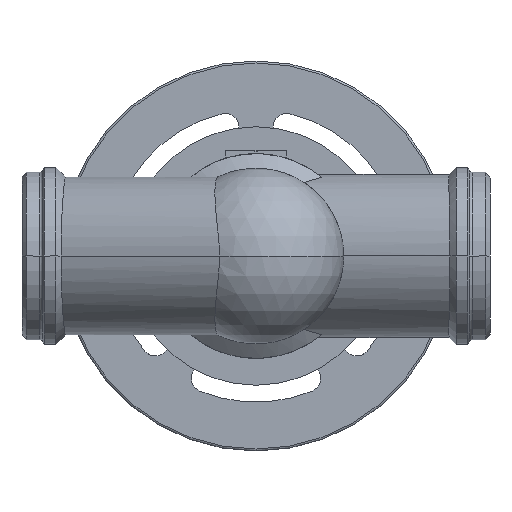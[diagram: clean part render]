
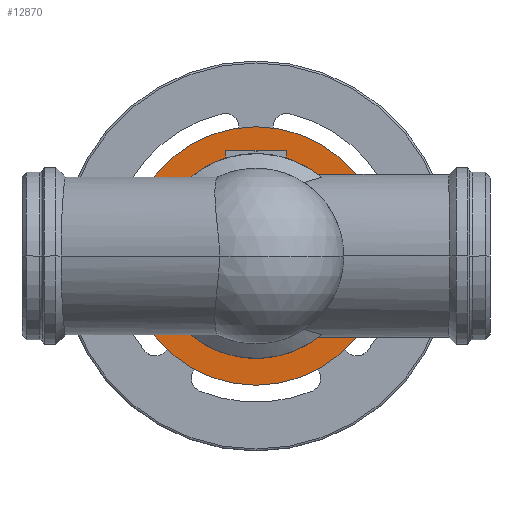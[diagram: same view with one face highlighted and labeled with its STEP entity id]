
A CAD part, front view. The second image highlights one B-rep face of the part: STEP entity #12870.
In plain terms, the highlighted planar face has unit normal (0, -1, 0).
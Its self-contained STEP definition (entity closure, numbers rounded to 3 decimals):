
#5750=CARTESIAN_POINT('',(135.,141.74,0.));
#5760=VERTEX_POINT('',#5750);
#6760=CARTESIAN_POINT('',(345.,141.74,0.));
#6770=VERTEX_POINT('',#6760);
#6800=CARTESIAN_POINT('',(240.,141.74,0.));
#6810=DIRECTION('',(0.,1.,0.));
#6820=DIRECTION('',(1.,0.,0.));
#6830=AXIS2_PLACEMENT_3D('',#6800,#6810,#6820);
#6840=CIRCLE('',#6830,105.);
#6850=EDGE_CURVE('',#6770,#5760,#6840,.T.);
#12320=CARTESIAN_POINT('',(372.5,141.74,0.));
#12330=VERTEX_POINT('',#12320);
#12380=CARTESIAN_POINT('',(240.,141.74,0.));
#12390=DIRECTION('',(0.,-1.,0.));
#12400=DIRECTION('',(1.,0.,0.));
#12410=AXIS2_PLACEMENT_3D('',#12380,#12390,#12400);
#12420=CIRCLE('',#12410,132.5);
#12430=CARTESIAN_POINT('',(107.5,141.74,0.));
#12440=VERTEX_POINT('',#12430);
#12450=EDGE_CURVE('',#12330,#12440,#12420,.T.);
#12720=CARTESIAN_POINT('',(359.25,141.74,0.));
#12730=DIRECTION('',(0.,-1.,0.));
#12740=DIRECTION('',(-1.,0.,0.));
#12750=AXIS2_PLACEMENT_3D('',#12720,#12730,#12740);
#12760=PLANE('',#12750);
#12770=EDGE_CURVE('',#12440,#12330,#12420,.T.);
#12780=ORIENTED_EDGE('',*,*,#12770,.T.);
#12790=ORIENTED_EDGE('',*,*,#12450,.T.);
#12800=EDGE_LOOP('',(#12790,#12780));
#12810=FACE_OUTER_BOUND('',#12800,.T.);
#12820=EDGE_CURVE('',#5760,#6770,#6840,.T.);
#12830=ORIENTED_EDGE('',*,*,#12820,.T.);
#12840=ORIENTED_EDGE('',*,*,#6850,.T.);
#12850=EDGE_LOOP('',(#12840,#12830));
#12860=FACE_BOUND('',#12850,.T.);
#12870=ADVANCED_FACE('',(#12810,#12860),#12760,.T.);
